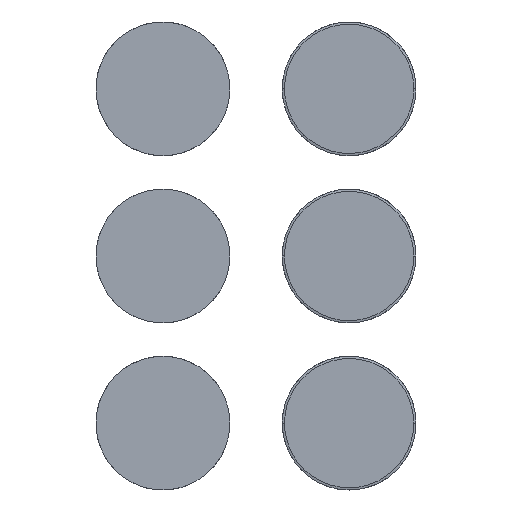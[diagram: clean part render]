
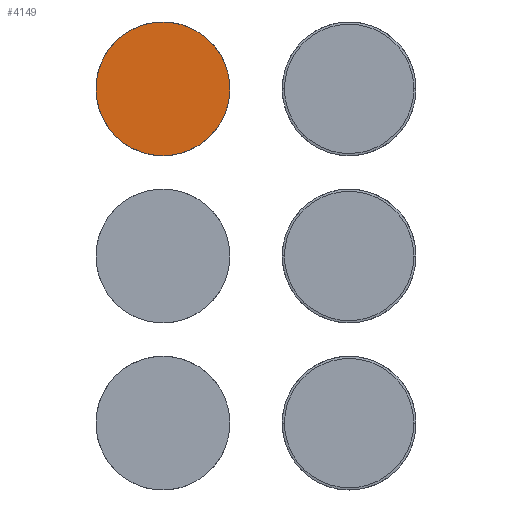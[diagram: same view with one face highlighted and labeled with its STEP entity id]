
A CAD part, top view. The second image highlights one B-rep face of the part: STEP entity #4149.
In plain terms, the highlighted free-form (B-spline) face has degree [1, 1] with [2, 2] control points.
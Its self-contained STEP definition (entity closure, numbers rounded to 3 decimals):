
#4149=ADVANCED_FACE('',(#5145),#34353,.T.);
#5145=FACE_OUTER_BOUND('',#6141,.T.);
#6141=EDGE_LOOP('',(#7141,#7142));
#7141=ORIENTED_EDGE('',*,*,#29271,.F.);
#7142=ORIENTED_EDGE('',*,*,#29275,.T.);
#11792=PCURVE('',#34980,#16448);
#11797=PCURVE('',#34353,#16453);
#11798=PCURVE('',#34353,#16454);
#11801=PCURVE('',#34981,#16457);
#16448=DEFINITIONAL_REPRESENTATION('',(#21104),#74929);
#16453=DEFINITIONAL_REPRESENTATION('',(#31605),#74929);
#16454=DEFINITIONAL_REPRESENTATION('',(#31607),#74929);
#16457=DEFINITIONAL_REPRESENTATION('',(#21109),#74929);
#21104=B_SPLINE_CURVE_WITH_KNOTS('',1,(#35418,#35419),.UNSPECIFIED.,.F.,
 .F.,(2,2),(0.,2400.),.UNSPECIFIED.);
#21109=B_SPLINE_CURVE_WITH_KNOTS('',1,(#35465,#35466),.UNSPECIFIED.,.F.,
 .F.,(2,2),(-2400.,0.),.UNSPECIFIED.);
#26943=SURFACE_CURVE('',#31599,(#11792,#11797),.PCURVE_S1.);
#26947=SURFACE_CURVE('',#31606,(#11798,#11801),.PCURVE_S1.);
#29271=EDGE_CURVE('',#32865,#32866,#26943,.T.);
#29275=EDGE_CURVE('',#32865,#32866,#26947,.T.);
#31599=(
BOUNDED_CURVE()
B_SPLINE_CURVE(2,(#35413,#35414,#35415,#35416,#35417),.UNSPECIFIED.,.F.,
 .F.)
B_SPLINE_CURVE_WITH_KNOTS((3,2,3),(0.,1200.,2400.),.UNSPECIFIED.)
CURVE()
GEOMETRIC_REPRESENTATION_ITEM()
RATIONAL_B_SPLINE_CURVE((1.,0.707,1.,0.707,1.))
REPRESENTATION_ITEM('')
);
#31605=(
BOUNDED_CURVE()
B_SPLINE_CURVE(2,(#35446,#35447,#35448,#35449,#35450),.UNSPECIFIED.,.F.,
 .F.)
B_SPLINE_CURVE_WITH_KNOTS((3,2,3),(0.,1200.,2400.),.UNSPECIFIED.)
CURVE()
GEOMETRIC_REPRESENTATION_ITEM()
RATIONAL_B_SPLINE_CURVE((1.,0.707,1.,0.707,1.))
REPRESENTATION_ITEM('')
);
#31606=(
BOUNDED_CURVE()
B_SPLINE_CURVE(2,(#35451,#35452,#35453,#35454,#35455),.UNSPECIFIED.,.F.,
 .F.)
B_SPLINE_CURVE_WITH_KNOTS((3,2,3),(-2400.,-1200.,0.),.UNSPECIFIED.)
CURVE()
GEOMETRIC_REPRESENTATION_ITEM()
RATIONAL_B_SPLINE_CURVE((1.,0.707,1.,0.707,1.))
REPRESENTATION_ITEM('')
);
#31607=(
BOUNDED_CURVE()
B_SPLINE_CURVE(2,(#35456,#35457,#35458,#35459,#35460),.UNSPECIFIED.,.F.,
 .F.)
B_SPLINE_CURVE_WITH_KNOTS((3,2,3),(-2400.,-1200.,0.),.UNSPECIFIED.)
CURVE()
GEOMETRIC_REPRESENTATION_ITEM()
RATIONAL_B_SPLINE_CURVE((1.,0.707,1.,0.707,1.))
REPRESENTATION_ITEM('')
);
#32865=VERTEX_POINT('',#35406);
#32866=VERTEX_POINT('',#35407);
#34353=B_SPLINE_SURFACE_WITH_KNOTS('',1,1,((#35391,#35392),(#35393,#35394)),
 .UNSPECIFIED.,.F.,.F.,.F.,(2,2),(2,2),(138.,1362.),(138.,1362.),
 .UNSPECIFIED.);
#34980=(
BOUNDED_SURFACE()
B_SPLINE_SURFACE(2,1,((#35377,#35378),(#35379,#35380),(#35381,#35382),(#35383,
#35384),(#35385,#35386)),.UNSPECIFIED.,.F.,.F.,.F.)
B_SPLINE_SURFACE_WITH_KNOTS((3,2,3),(2,2),(942.478,1884.956,
2827.433),(2.52,26.52),.UNSPECIFIED.)
GEOMETRIC_REPRESENTATION_ITEM()
RATIONAL_B_SPLINE_SURFACE(((1.,1.),(0.707,0.707),
(1.,1.),(0.707,0.707),(1.,1.)))
REPRESENTATION_ITEM('')
SURFACE()
);
#34981=(
BOUNDED_SURFACE()
B_SPLINE_SURFACE(2,1,((#35395,#35396),(#35397,#35398),(#35399,#35400),(#35401,
#35402),(#35403,#35404)),.UNSPECIFIED.,.F.,.F.,.F.)
B_SPLINE_SURFACE_WITH_KNOTS((3,2,3),(2,2),(942.478,1884.956,
2827.433),(2.52,26.52),.UNSPECIFIED.)
GEOMETRIC_REPRESENTATION_ITEM()
RATIONAL_B_SPLINE_SURFACE(((1.,1.),(0.707,0.707),
(1.,1.),(0.707,0.707),(1.,1.)))
REPRESENTATION_ITEM('')
SURFACE()
);
#35377=CARTESIAN_POINT('',(-30111.896,1500.,707.034));
#35378=CARTESIAN_POINT('',(-30111.896,1500.,728.034));
#35379=CARTESIAN_POINT('',(-30111.896,2100.,707.034));
#35380=CARTESIAN_POINT('',(-30111.896,2100.,728.034));
#35381=CARTESIAN_POINT('',(-30711.896,2100.,707.034));
#35382=CARTESIAN_POINT('',(-30711.896,2100.,728.034));
#35383=CARTESIAN_POINT('',(-31311.896,2100.,707.034));
#35384=CARTESIAN_POINT('',(-31311.896,2100.,728.034));
#35385=CARTESIAN_POINT('',(-31311.896,1500.,707.034));
#35386=CARTESIAN_POINT('',(-31311.896,1500.,728.034));
#35391=CARTESIAN_POINT('',(-31323.896,888.,728.034));
#35392=CARTESIAN_POINT('',(-31323.896,2112.,728.034));
#35393=CARTESIAN_POINT('',(-30099.896,888.,728.034));
#35394=CARTESIAN_POINT('',(-30099.896,2112.,728.034));
#35395=CARTESIAN_POINT('',(-31311.896,1500.,707.034));
#35396=CARTESIAN_POINT('',(-31311.896,1500.,728.034));
#35397=CARTESIAN_POINT('',(-31311.896,900.,707.034));
#35398=CARTESIAN_POINT('',(-31311.896,900.,728.034));
#35399=CARTESIAN_POINT('',(-30711.896,900.,707.034));
#35400=CARTESIAN_POINT('',(-30711.896,900.,728.034));
#35401=CARTESIAN_POINT('',(-30111.896,900.,707.034));
#35402=CARTESIAN_POINT('',(-30111.896,900.,728.034));
#35403=CARTESIAN_POINT('',(-30111.896,1500.,707.034));
#35404=CARTESIAN_POINT('',(-30111.896,1500.,728.034));
#35406=CARTESIAN_POINT('',(-31311.896,1500.,728.034));
#35407=CARTESIAN_POINT('',(-30111.896,1500.,728.034));
#35413=CARTESIAN_POINT('',(-31311.896,1500.,728.034));
#35414=CARTESIAN_POINT('',(-31311.896,2100.,728.034));
#35415=CARTESIAN_POINT('',(-30711.896,2100.,728.034));
#35416=CARTESIAN_POINT('',(-30111.896,2100.,728.034));
#35417=CARTESIAN_POINT('',(-30111.896,1500.,728.034));
#35418=CARTESIAN_POINT('',(2827.433,26.52));
#35419=CARTESIAN_POINT('',(942.478,26.52));
#35446=CARTESIAN_POINT('',(150.,750.));
#35447=CARTESIAN_POINT('',(150.,1350.));
#35448=CARTESIAN_POINT('',(750.,1350.));
#35449=CARTESIAN_POINT('',(1350.,1350.));
#35450=CARTESIAN_POINT('',(1350.,750.));
#35451=CARTESIAN_POINT('',(-31311.896,1500.,728.034));
#35452=CARTESIAN_POINT('',(-31311.896,900.,728.034));
#35453=CARTESIAN_POINT('',(-30711.896,900.,728.034));
#35454=CARTESIAN_POINT('',(-30111.896,900.,728.034));
#35455=CARTESIAN_POINT('',(-30111.896,1500.,728.034));
#35456=CARTESIAN_POINT('',(150.,750.));
#35457=CARTESIAN_POINT('',(150.,150.));
#35458=CARTESIAN_POINT('',(750.,150.));
#35459=CARTESIAN_POINT('',(1350.,150.));
#35460=CARTESIAN_POINT('',(1350.,750.));
#35465=CARTESIAN_POINT('',(942.478,26.52));
#35466=CARTESIAN_POINT('',(2827.433,26.52));
#74929=(
GEOMETRIC_REPRESENTATION_CONTEXT(2)
PARAMETRIC_REPRESENTATION_CONTEXT()
REPRESENTATION_CONTEXT('pspace','')
);
